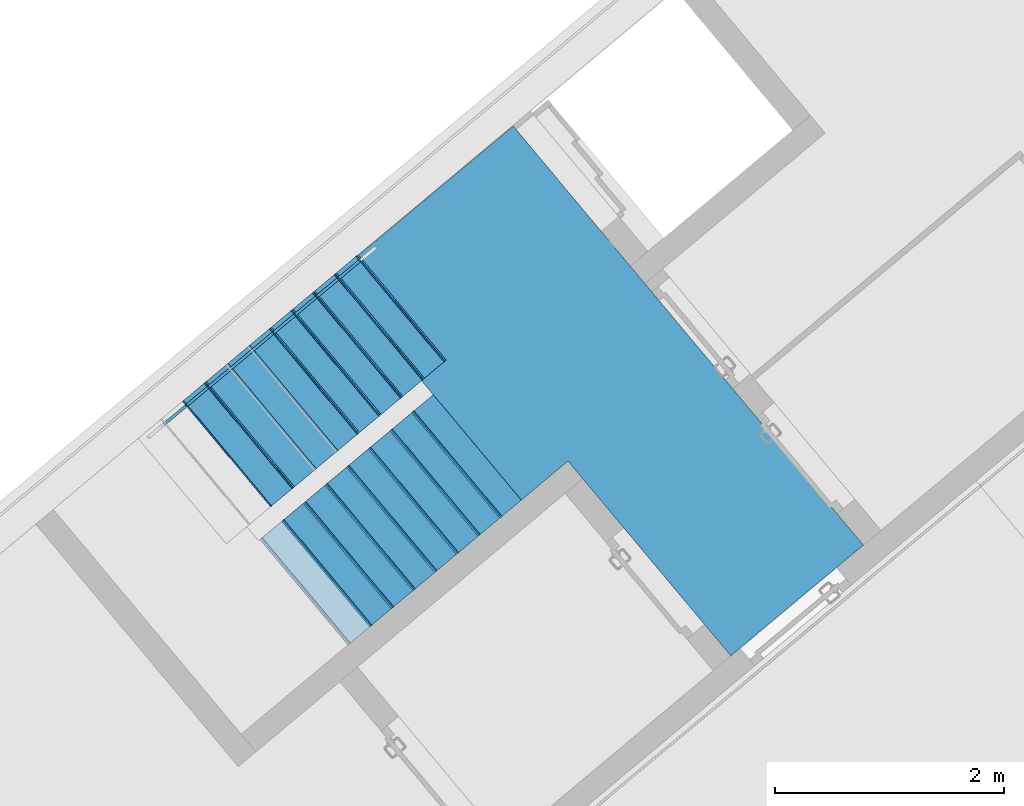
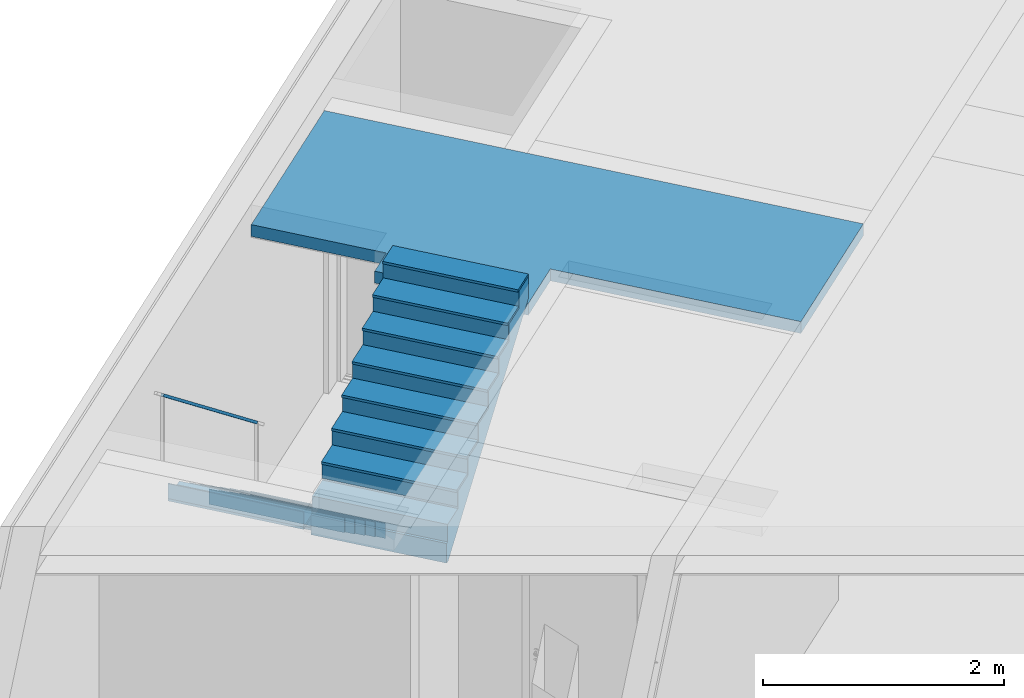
# One storey, part 9 of 14: 32 building element parts, 3 elements without a shape of their own.
"""IFC4 building model written with IfcOpenShell, lengths in metres."""

import ifcopenshell
import ifcopenshell.guid

model = None  # the IFC model being written
_history = None  # IfcOwnerHistory: only IFC2X3 demands one
_inside = {}  # id of a spatial element -> (the spatial element, [elements in it])
_under = {}  # id of a project, library or spatial element -> (it, [spatial elements below it])
_declared = {}  # id of a project -> (the project, [libraries it declares])
_typed = {}  # id of a type object -> (the type object, [elements of that type])
_made_of = {}  # id of a material, layer set ... -> (it, [elements and type objects made of it])


def new_model(schema):
    """Start an empty IFC model of exactly this schema.

    Asked for "IFC4X3", IfcOpenShell would pick the latest addendum, in which some entities
    have other attributes; the version numbers below select the first issue.
    IFC2X3 requires an IfcOwnerHistory on every rooted entity: one is made here for all.
    """
    global model, _history
    if schema == "IFC4X3":
        model = ifcopenshell.file(schema_version=(4, 3, 0, 0))
    else:
        model = ifcopenshell.file(schema=schema)
    _inside.clear()
    _under.clear()
    _declared.clear()
    _typed.clear()
    _made_of.clear()
    _history = None
    if model.schema == "IFC2X3":
        org = make("IfcOrganization", Name="unknown")
        user = make(
            "IfcPersonAndOrganization",
            ThePerson=make("IfcPerson", FamilyName="unknown"),
            TheOrganization=org,
        )
        app = make(
            "IfcApplication",
            ApplicationDeveloper=org,
            Version="unknown",
            ApplicationFullName="unknown",
            ApplicationIdentifier="unknown",
        )
        _history = make(
            "IfcOwnerHistory",
            OwningUser=user,
            OwningApplication=app,
            ChangeAction="ADDED",
            CreationDate=0,
        )
    return model


def make(cls, **values):
    """One entity of the class cls with the attributes given. An attribute that is None is left unset."""
    return model.create_entity(
        cls, **{name: value for name, value in values.items() if value is not None}
    )


def entity(cls, *values):
    """Any entity or typed value of the class cls, its attributes in the order of the schema. None: left unset."""
    e = model.create_entity(cls)
    for i, value in enumerate(values):
        if value is not None:
            e[i] = value
    return e


def rooted(cls, **values):
    """An entity with a GlobalId (a new one), such as an element, a storey or a relation."""
    return make(cls, GlobalId=ifcopenshell.guid.new(), OwnerHistory=_history, **values)


def si_unit(unit_type, name, prefix=None):
    """IfcSIUnit, for example si_unit("LENGTHUNIT", "METRE", prefix="MILLI")."""
    return make("IfcSIUnit", UnitType=unit_type, Prefix=prefix, Name=name)


def converted_unit(unit_type, name, factor, base, dimensions=None, offset=None):
    """IfcConversionBasedUnit, such as the inch: factor (a typed value) times the base unit."""
    return make(
        "IfcConversionBasedUnit"
        if offset is None
        else "IfcConversionBasedUnitWithOffset",
        ConversionOffset=offset,
        Dimensions=None
        if dimensions is None
        else entity("IfcDimensionalExponents", *dimensions),
        UnitType=unit_type,
        Name=name,
        ConversionFactor=make(
            "IfcMeasureWithUnit", ValueComponent=factor, UnitComponent=base
        ),
    )


def derived_unit(unit_type, elements):
    """IfcDerivedUnit: a product of units, each with its exponent."""
    return make(
        "IfcDerivedUnit",
        Elements=[
            make("IfcDerivedUnitElement", Unit=unit, Exponent=power)
            for unit, power in elements
        ],
        UnitType=unit_type,
    )


def assignment(units):
    """IfcUnitAssignment: the units of a project."""
    return None if units is None else make("IfcUnitAssignment", Units=units)


def point(xyz):
    """IfcCartesianPoint."""
    return None if xyz is None else make("IfcCartesianPoint", Coordinates=xyz)


def direction(xyz):
    """IfcDirection."""
    return None if xyz is None else make("IfcDirection", DirectionRatios=xyz)


def frame(location, z_axis=None, x_axis=None):
    """IfcAxis2Placement3D, a coordinate frame: its origin and axes. An axis left out is left unset."""
    return make(
        "IfcAxis2Placement3D",
        Location=point(location),
        Axis=direction(z_axis),
        RefDirection=direction(x_axis),
    )


def origin_with_axes():
    """The frame at (0, 0, 0) with the z axis (0, 0, 1) and the x axis (1, 0, 0) written out."""
    return frame((0.0, 0.0, 0.0), z_axis=(0.0, 0.0, 1.0), x_axis=(1.0, 0.0, 0.0))


def place(relative_to, where):
    """IfcLocalPlacement: puts the frame where relative to a parent placement (None: the world)."""
    return make(
        "IfcLocalPlacement", PlacementRelTo=relative_to, RelativePlacement=where
    )


def context(
    kind, dimensions, precision=None, world=None, true_north=None, identifier=None
):
    """IfcGeometricRepresentationContext, for example the 3D "Model" context."""
    return make(
        "IfcGeometricRepresentationContext",
        ContextIdentifier=identifier,
        ContextType=kind,
        CoordinateSpaceDimension=dimensions,
        Precision=precision,
        WorldCoordinateSystem=world,
        TrueNorth=true_north,
    )


def subcontext(parent, identifier, kind, view, scale=None):
    """IfcGeometricRepresentationSubContext, for example "Body" below "Model"."""
    return make(
        "IfcGeometricRepresentationSubContext",
        ContextIdentifier=identifier,
        ContextType=kind,
        ParentContext=parent,
        TargetScale=scale,
        TargetView=view,
    )


def project(units=None, contexts=None):
    """IfcProject with its units and contexts."""
    return rooted(
        "IfcProject",
        Name="project",
        RepresentationContexts=contexts,
        UnitsInContext=assignment(units),
    )


def spatial(cls, under=None, at=None, **own):
    """A site, building, storey or space (cls), placed at a placement, below another one or the project."""
    s = rooted(cls, ObjectPlacement=at, **own)
    if under is not None:
        _under.setdefault(under.id(), (under, []))[1].append(s)
    return s


def point_list(points):
    """IfcCartesianPointList2D or 3D."""
    cls = (
        "IfcCartesianPointList2D" if len(points[0]) == 2 else "IfcCartesianPointList3D"
    )
    return make(cls, CoordList=points)


def polygons(points, faces, closed=None, point_numbers=None):
    """IfcPolygonalFaceSet: a face is its outer loop, then its inner loops; points numbered from 1."""
    made = []
    for loops in faces:
        if len(loops) == 1:
            made.append(make("IfcIndexedPolygonalFace", CoordIndex=loops[0]))
        else:
            made.append(
                make(
                    "IfcIndexedPolygonalFaceWithVoids",
                    CoordIndex=loops[0],
                    InnerCoordIndices=loops[1:],
                )
            )
    return make(
        "IfcPolygonalFaceSet",
        Coordinates=point_list(points),
        Closed=closed,
        Faces=made,
        PnIndex=point_numbers,
    )


def shape(context_of_items, identifier, shape_type, items):
    """IfcShapeRepresentation: the items that make up one representation, for example the "Body"."""
    return make(
        "IfcShapeRepresentation",
        ContextOfItems=context_of_items,
        RepresentationIdentifier=identifier,
        RepresentationType=shape_type,
        Items=items,
    )


def material(Name=None, Category=None):
    """IfcMaterial."""
    return make("IfcMaterial", Name=Name, Category=Category)


def made_of(thing, what):
    """Note that an element or type object is made of a material, layer set ...; save() writes the relation."""
    if what is not None:
        _made_of.setdefault(what.id(), (what, []))[1].append(thing)
    return thing


def type_object(cls, material=None, **own):
    """A type object (cls), such as IfcWallType, which elements share."""
    return made_of(rooted(cls, **own), material)


def element(
    cls,
    number,
    at=None,
    inside=None,
    cuts=None,
    type_object=None,
    material=None,
    context=None,
    identifier="Body",
    shape_type=None,
    held_by="IfcProductDefinitionShape",
    body=None,
    shapes=None,
    **own,
):
    """One element of the class cls, such as IfcWall. Its Tag is "e" and its number.

    at: its placement. inside: the storey or other place that contains it. cuts: it is an
    opening in that element (IfcRelVoidsElement). A single representation is given by context,
    identifier, shape_type and body (its items); several are given by shapes. held_by: the class
    of the entity that holds the representations. save() writes the other relations.
    """
    e = rooted(cls, Tag="e%d" % number, ObjectPlacement=at, **own)
    if body is not None:
        shapes = [shape(context, identifier, shape_type, body)]
    if shapes is not None:
        e.Representation = make(held_by, Representations=shapes)
    if inside is not None:
        _inside.setdefault(inside.id(), (inside, []))[1].append(e)
    if cuts is not None:
        rooted(
            "IfcRelVoidsElement", RelatingBuildingElement=cuts, RelatedOpeningElement=e
        )
    if type_object is not None:
        _typed.setdefault(type_object.id(), (type_object, []))[1].append(e)
    return made_of(e, material)


def aggregate(whole, parts):
    """IfcRelAggregates: a whole, such as a stair, and the parts it consists of."""
    return rooted("IfcRelAggregates", RelatingObject=whole, RelatedObjects=parts)


def save(model, path):
    """Write the relations noted so far, then the file.

    IfcRelAggregates (storeys below a building ...), IfcRelContainedInSpatialStructure (elements
    in a storey), IfcRelDefinesByType, IfcRelAssociatesMaterial and IfcRelDeclares: one each for
    every whole, place, type object, material and project.
    """
    for whole, parts in _under.values():
        aggregate(whole, parts)
    for where, things in _inside.values():
        rooted(
            "IfcRelContainedInSpatialStructure",
            RelatedElements=things,
            RelatingStructure=where,
        )
    for kind, things in _typed.values():
        rooted("IfcRelDefinesByType", RelatedObjects=things, RelatingType=kind)
    for what, things in _made_of.values():
        rooted("IfcRelAssociatesMaterial", RelatedObjects=things, RelatingMaterial=what)
    for by, libraries in _declared.values():
        rooted("IfcRelDeclares", RelatingContext=by, RelatedDefinitions=libraries)
    model.write(path)


model = new_model("IFC4")

# Units and contexts
model_context = context("Model", 3, precision=1e-05, world=origin_with_axes(), true_north=direction((0.0, 1.0)))
body_context = subcontext(model_context, "Body", "Model", "MODEL_VIEW")
ifc_project = project(units=[si_unit("LENGTHUNIT", "METRE"), si_unit("AREAUNIT", "SQUARE_METRE"), si_unit("VOLUMEUNIT", "CUBIC_METRE"), converted_unit("PLANEANGLEUNIT", "DEGREE", entity("IfcPlaneAngleMeasure", 0.0174532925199), si_unit("PLANEANGLEUNIT", "RADIAN"), dimensions=[0, 0, 0, 0, 0, 0, 0]), converted_unit("TIMEUNIT", "Year", entity("IfcTimeMeasure", 31556926.0), si_unit("TIMEUNIT", "SECOND"), dimensions=[0, 0, 1, 0, 0, 0, 0]), si_unit("MASSUNIT", "GRAM", prefix="KILO"), si_unit("THERMODYNAMICTEMPERATUREUNIT", "DEGREE_CELSIUS"), si_unit("LUMINOUSINTENSITYUNIT", "LUMEN"), si_unit("ENERGYUNIT", "JOULE", prefix="MEGA"), derived_unit("THERMALCONDUCTANCEUNIT", [(si_unit("POWERUNIT", "WATT"), 1), (si_unit("LENGTHUNIT", "METRE"), -1), (si_unit("THERMODYNAMICTEMPERATUREUNIT", "KELVIN"), -1)]), derived_unit("SPECIFICHEATCAPACITYUNIT", [(si_unit("ENERGYUNIT", "JOULE"), 1), (si_unit("MASSUNIT", "GRAM", prefix="KILO"), -1), (si_unit("THERMODYNAMICTEMPERATUREUNIT", "KELVIN"), -1)]), derived_unit("MASSDENSITYUNIT", [(si_unit("MASSUNIT", "GRAM", prefix="KILO"), 1), (si_unit("VOLUMEUNIT", "CUBIC_METRE"), -1)])], contexts=[model_context])

# Site, building, storey, space
site_placement = place(None, frame((-0.00153261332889, -0.00661245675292, 0.0), z_axis=(0.0, 0.0, 1.0), x_axis=(1.0, 0.0, 0.0)))
site = spatial("IfcSite", under=ifc_project, at=site_placement, Name="Gelände", CompositionType="ELEMENT")
building_placement = place(site_placement, origin_with_axes())
building = spatial("IfcBuilding", under=site, at=building_placement, Name="Gebäude", CompositionType="ELEMENT")
storey_placement = place(building_placement, frame((0.0, 0.0, -3.3), z_axis=(0.0, 0.0, 1.0), x_axis=(1.0, 0.0, 0.0)))
storey = spatial("IfcBuildingStorey", under=building, at=storey_placement, Name="UG1", CompositionType="ELEMENT", Elevation=-3.3)
space_1_placement = place(storey_placement, frame((-1.16790631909, 24.7563892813, 0.0), z_axis=(0.0, 0.0, 1.0), x_axis=(0.641170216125, -0.767398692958, 0.0)))
space_1 = spatial("IfcSpace", under=storey, at=space_1_placement, Name="Beschichtung", CompositionType="ELEMENT", PredefinedType="NOTDEFINED")

# Railing, building element part
railing_type = type_object("IfcRailingType", Name="Geländerart", PredefinedType="NOTDEFINED")
railing_placement = place(space_1_placement, frame((-7.15429375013e-05, 0.255237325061, 0.0), z_axis=(0.0, 0.0, 1.0), x_axis=(0.641170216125, 0.767398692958, 0.0)))
railing = element("IfcRailing", 1, at=railing_placement, inside=space_1, type_object=railing_type, Name="Geländer - 001", PredefinedType="NOTDEFINED")
ifc_material_1 = material(Name="BEKLEIDUNG")
building_element_part_1_placement = place(railing_placement, origin_with_axes())
building_element_part_1 = element("IfcBuildingElementPart", 2, at=building_element_part_1_placement, material=ifc_material_1, Name="BEKLEIDUNG", PredefinedType="NOTDEFINED", context=body_context, shape_type="Tessellation", body=[
    polygons([(-0.171824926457, -0.192428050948, 0.9), (-0.183623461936, -0.202285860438, 0.880286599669), (-1.92194510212, -1.65467320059, 2.64695326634), (-1.91014656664, -1.6448153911, 2.66666666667), (-0.155795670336, -0.211613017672, 0.9), (-0.167594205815, -0.221470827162, 0.880286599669), (-1.90591584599, -1.67385816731, 2.64695326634), (-1.89411731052, -1.66400035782, 2.66666666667)], [[[1, 2, 3, 4]], [[1, 5, 6, 2]], [[2, 6, 7, 3]], [[4, 3, 7, 8]], [[5, 1, 4, 8]], [[6, 5, 8, 7]]], closed=True),
])
aggregate(railing, [building_element_part_1])

# Covering, building element part
covering_type = type_object("IfcCoveringType", Name="Vorsatzschale Garage 130", PredefinedType="NOTDEFINED")
covering_placement = place(storey_placement, frame((3.24624745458, 22.2189221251, 2.88), z_axis=(0.0, 0.0, 1.0), x_axis=(1.0, 0.0, 0.0)))
covering = element("IfcCovering", 3, at=covering_placement, inside=storey, type_object=covering_type, Name="Decke-005", PredefinedType="NOTDEFINED")
ifc_material_2 = material(Name="Holzwolledämmplatte")
building_element_part_2_placement = place(covering_placement, origin_with_axes())
building_element_part_2 = element("IfcBuildingElementPart", 4, at=building_element_part_2_placement, material=ifc_material_2, Name="Holzwolledämmplatte", PredefinedType="NOTDEFINED", context=body_context, shape_type="Tessellation", body=[
    polygons([(0.0, 0.0, -0.12), (-3.05956379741, 3.66153767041, -0.12), (-3.05956379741, 3.66153767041, 0.0), (0.0, 0.0, 0.0), (-1.15876961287, -0.968265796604, -0.12), (-2.58084285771, 0.733596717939, -0.12), (-2.98835951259, 0.393076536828, -0.12), (-3.86030260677, 1.4365849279, -0.12), (-3.64479537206, 1.61664362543, -0.12), (-4.41133641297, 2.53409509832, -0.12), (-4.41133641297, 2.53409509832, 0.0), (-1.15876961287, -0.968265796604, 0.0), (-3.64479537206, 1.61664362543, 0.0), (-3.86030260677, 1.4365849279, 0.0), (-2.98835951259, 0.393076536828, 0.0), (-2.58084285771, 0.733596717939, 0.0)], [[[1, 2, 3, 4]], [[2, 1, 5, 6, 7, 8, 9, 10]], [[2, 10, 11, 3]], [[12, 4, 3, 11, 13, 14, 15, 16]], [[5, 1, 4, 12]], [[6, 5, 12, 16]], [[7, 6, 16, 15]], [[8, 7, 15, 14]], [[9, 8, 14, 13]], [[10, 9, 13, 11]]], closed=True),
])
aggregate(covering, [building_element_part_2])

# Space
space_2_placement = place(storey_placement, frame((-3.82859754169, 22.5273942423, 0.0164638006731), z_axis=(0.0, 0.0, 1.0), x_axis=(0.641209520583, -0.767365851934, 0.0)))
space_2 = spatial("IfcSpace", under=storey, at=space_2_placement, CompositionType="ELEMENT", PredefinedType="NOTDEFINED")

# Stair, building element parts
stair_type = type_object("IfcStairType", Name="Treppentyp", PredefinedType="NOTDEFINED")
stair_placement = place(space_2_placement, frame((-0.00445260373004, 3.72621375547, -0.0164638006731), z_axis=(0.0, 0.0, 1.0), x_axis=(0.641209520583, 0.767365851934, 0.0)))
stair = element("IfcStair", 5, at=stair_placement, inside=space_2, type_object=stair_type, Name="Treppe - 001", PredefinedType="NOTDEFINED")
ifc_material_3 = material(Name="Stahlbeton Decke")
building_element_part_3_placement = place(stair_placement, origin_with_axes())
building_element_part_3 = element("IfcBuildingElementPart", 6, at=building_element_part_3_placement, material=ifc_material_3, Name="Stahlbeton Decke", PredefinedType="NOTDEFINED", context=body_context, shape_type="Tessellation", body=[
    polygons([(1.10378229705, -2.4135394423, 2.81014065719), (1.16687682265, -2.36081777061, 2.86902954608), (1.22997134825, -2.30809609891, 2.92791843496), (1.22997134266, -2.30809609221, 3.155), (1.05994864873, -2.45016674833, 3.155), (1.05994864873, -2.45016674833, 2.97833333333), (0.870665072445, -2.60833176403, 2.97833333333), (0.870665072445, -2.60833176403, 2.80166666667), (0.681381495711, -2.7664967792, 2.80166666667), (0.681381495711, -2.7664967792, 2.625), (0.492097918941, -2.92466179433, 2.625), (0.492097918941, -2.92466179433, 2.44833333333), (0.302814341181, -3.08282680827, 2.44833333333), (0.302814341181, -3.08282680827, 2.27166666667), (0.113530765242, -3.24099182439, 2.27166666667), (0.113530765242, -3.24099182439, 2.095), (-0.0757528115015, -3.39915683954, 2.095), (-0.0757528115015, -3.39915683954, 1.91833333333), (-0.265036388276, -3.55732185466, 1.91833333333), (-0.265036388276, -3.55732185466, 1.74166666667), (-0.284297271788, -3.57341621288, 1.74166666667), (-0.284297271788, -3.57341621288, 1.54166666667), (-0.255281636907, -3.54917080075, 1.54166666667), (-0.221202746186, -3.52069454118, 1.57347399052), (-0.158108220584, -3.46797286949, 1.63236287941), (-0.0950136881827, -3.41525120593, 1.6912517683), (-0.0319191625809, -3.36252953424, 1.75014065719), (0.0311753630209, -3.30980786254, 1.80902954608), (0.0942698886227, -3.25708619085, 1.86791843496), (0.157364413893, -3.20436451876, 1.92680732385), (0.220458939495, -3.15164284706, 1.98569621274), (0.283553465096, -3.09892117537, 2.04458510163), (0.346647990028, -3.04619950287, 2.10347399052), (0.40974251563, -2.99347783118, 2.16236287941), (0.472837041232, -2.94075615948, 2.2212517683), (0.535931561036, -2.88803448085, 2.28014065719), (0.599026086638, -2.83531280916, 2.33902954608), (0.66212061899, -2.78259114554, 2.39791843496), (0.725215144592, -2.72986947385, 2.45680732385), (0.788309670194, -2.67714780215, 2.51569621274), (0.851404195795, -2.62442613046, 2.57458510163), (0.914498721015, -2.57170445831, 2.63347399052), (0.977593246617, -2.51898278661, 2.69236287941), (1.04068777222, -2.46626111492, 2.7512517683), (0.397425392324, -1.43997874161, 2.86902954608), (0.334330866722, -1.49270041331, 2.81014065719), (0.460519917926, -1.38725706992, 2.92791843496), (0.460519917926, -1.38725706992, 3.155), (0.290497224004, -1.52932772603, 3.155), (0.290497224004, -1.52932772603, 2.97833333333), (0.101213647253, -1.68749274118, 2.97833333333), (0.101213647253, -1.68749274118, 2.80166666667), (-0.0880699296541, -1.84565775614, 2.80166666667), (-0.0880699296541, -1.84565775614, 2.625), (-0.27735350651, -2.00382277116, 2.625), (-0.27735350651, -2.00382277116, 2.44833333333), (-0.46663708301, -2.16198778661, 2.44833333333), (-0.46663708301, -2.16198778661, 2.27166666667), (-0.655920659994, -2.32015280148, 2.27166666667), (-0.655920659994, -2.32015280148, 2.095), (-0.845204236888, -2.47831781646, 2.095), (-0.845204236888, -2.47831781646, 1.91833333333), (-1.03448781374, -2.63648283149, 1.91833333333), (-1.03448781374, -2.63648283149, 1.74166666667), (-1.05374869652, -2.65257719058, 1.74166666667), (-1.05374870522, -2.65257718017, 1.54166666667), (-1.02473307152, -2.62833176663, 1.54166666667), (-0.990654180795, -2.59985550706, 1.57347399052), (-0.927559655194, -2.54713383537, 1.63236287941), (-0.864465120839, -2.49441217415, 1.6912517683), (-0.801370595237, -2.44169050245, 1.75014065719), (-0.738276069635, -2.38896883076, 1.80902954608), (-0.675181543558, -2.33624715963, 1.86791843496), (-0.612087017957, -2.28352548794, 1.92680732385), (-0.548992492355, -2.23080381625, 1.98569621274), (-0.4858979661, -2.17808214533, 2.04458510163), (-0.422803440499, -2.12536047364, 2.10347399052), (-0.359708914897, -2.07263880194, 2.16236287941), (-0.296614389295, -2.01991713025, 2.2212517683), (-0.233519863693, -1.96719545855, 2.28014065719), (-0.170425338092, -1.91447378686, 2.33902954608), (-0.10733081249, -1.86175211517, 2.39791843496), (-0.0442362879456, -1.80903044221, 2.45680732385), (0.0188582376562, -1.75630877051, 2.51569621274), (0.0819527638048, -1.70358709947, 2.57458510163), (0.145047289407, -1.65086542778, 2.63347399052), (0.208141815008, -1.59814375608, 2.69236287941), (0.271236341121, -1.545422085, 2.7512517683)], [[[1, 2, 3, 4, 5, 6, 7, 8, 9, 10, 11, 12, 13, 14, 15, 16, 17, 18, 19, 20, 21, 22, 23, 24, 25, 26, 27, 28, 29, 30, 31, 32, 33, 34, 35, 36, 37, 38, 39, 40, 41, 42, 43, 44]], [[45, 2, 1, 46]], [[47, 3, 2, 45]], [[4, 3, 47, 48]], [[4, 48, 49, 5]], [[49, 50, 6, 5]], [[51, 7, 6, 50]], [[51, 52, 8, 7]], [[53, 9, 8, 52]], [[53, 54, 10, 9]], [[55, 11, 10, 54]], [[55, 56, 12, 11]], [[57, 13, 12, 56]], [[57, 58, 14, 13]], [[59, 15, 14, 58]], [[59, 60, 16, 15]], [[61, 17, 16, 60]], [[61, 62, 18, 17]], [[63, 19, 18, 62]], [[63, 64, 20, 19]], [[64, 65, 21, 20]], [[66, 22, 21, 65]], [[23, 22, 66, 67]], [[68, 24, 23, 67]], [[69, 25, 24, 68]], [[70, 26, 25, 69]], [[71, 27, 26, 70]], [[72, 28, 27, 71]], [[73, 29, 28, 72]], [[74, 30, 29, 73]], [[75, 31, 30, 74]], [[76, 32, 31, 75]], [[77, 33, 32, 76]], [[78, 34, 33, 77]], [[79, 35, 34, 78]], [[80, 36, 35, 79]], [[81, 37, 36, 80]], [[82, 38, 37, 81]], [[83, 39, 38, 82]], [[84, 40, 39, 83]], [[85, 41, 40, 84]], [[86, 42, 41, 85]], [[87, 43, 42, 86]], [[88, 44, 43, 87]], [[46, 1, 44, 88]], [[69, 68, 67, 66, 65, 64, 63, 62, 61, 60, 59, 58, 57, 56, 55, 54, 53, 52, 51, 50, 49, 48, 47, 45, 46, 88, 87, 86, 85, 84, 83, 82, 81, 80, 79, 78, 77, 76, 75, 74, 73, 72, 71, 70]]], closed=True),
])
building_element_part_4_placement = place(stair_placement, origin_with_axes())
building_element_part_4 = element("IfcBuildingElementPart", 7, at=building_element_part_4_placement, material=ifc_material_1, Name="BEKLEIDUNG", PredefinedType="NOTDEFINED", context=body_context, shape_type="Tessellation", body=[
    polygons([(-0.207379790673, -0.173268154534, 0.151666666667), (-0.215053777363, -0.179679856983, 0.151666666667), (0.55435051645, -1.10055825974, 0.151666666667), (0.56202450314, -1.09414655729, 0.151666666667), (-0.207379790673, -0.173268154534, 0.0), (-0.215053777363, -0.179679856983, 0.0), (0.55435051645, -1.10055825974, 0.0), (0.56202450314, -1.09414655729, 0.0)], [[[1, 2, 3, 4]], [[1, 5, 6, 2]], [[2, 6, 7, 3]], [[4, 3, 7, 8]], [[5, 1, 4, 8]], [[6, 5, 8, 7]]], closed=True),
])
building_element_part_5_placement = place(stair_placement, origin_with_axes())
building_element_part_5 = element("IfcBuildingElementPart", 8, at=building_element_part_5_placement, material=ifc_material_1, Name="BEKLEIDUNG", PredefinedType="NOTDEFINED", context=body_context, shape_type="Tessellation", body=[
    polygons([(-0.396671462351, -0.331423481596, 0.328333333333), (-0.40434544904, -0.337835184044, 0.328333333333), (0.365058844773, -1.2587135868, 0.328333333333), (0.372732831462, -1.25230188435, 0.328333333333), (-0.396671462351, -0.331423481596, 0.176666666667), (-0.40434544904, -0.337835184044, 0.176666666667), (0.365058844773, -1.2587135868, 0.176666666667), (0.372732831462, -1.25230188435, 0.176666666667)], [[[1, 2, 3, 4]], [[1, 5, 6, 2]], [[2, 6, 7, 3]], [[4, 3, 7, 8]], [[5, 1, 4, 8]], [[6, 5, 8, 7]]], closed=True),
])
building_element_part_6_placement = place(stair_placement, origin_with_axes())
building_element_part_6 = element("IfcBuildingElementPart", 9, at=building_element_part_6_placement, material=ifc_material_1, Name="BEKLEIDUNG", PredefinedType="NOTDEFINED", context=body_context, shape_type="Tessellation", body=[
    polygons([(-0.585963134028, -0.489578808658, 0.505), (-0.593637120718, -0.495990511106, 0.505), (0.175767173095, -1.41686891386, 0.505), (0.183441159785, -1.41045721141, 0.505), (-0.585963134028, -0.489578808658, 0.353333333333), (-0.593637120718, -0.495990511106, 0.353333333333), (0.175767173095, -1.41686891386, 0.353333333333), (0.183441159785, -1.41045721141, 0.353333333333)], [[[1, 2, 3, 4]], [[1, 5, 6, 2]], [[2, 6, 7, 3]], [[4, 3, 7, 8]], [[5, 1, 4, 8]], [[6, 5, 8, 7]]], closed=True),
])
building_element_part_7_placement = place(stair_placement, origin_with_axes())
building_element_part_7 = element("IfcBuildingElementPart", 10, at=building_element_part_7_placement, material=ifc_material_1, Name="BEKLEIDUNG", PredefinedType="NOTDEFINED", context=body_context, shape_type="Tessellation", body=[
    polygons([(-0.775254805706, -0.647734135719, 0.681666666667), (-0.782928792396, -0.654145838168, 0.681666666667), (-0.0135244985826, -1.57502424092, 0.681666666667), (-0.005850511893, -1.56861253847, 0.681666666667), (-0.775254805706, -0.647734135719, 0.53), (-0.782928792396, -0.654145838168, 0.53), (-0.0135244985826, -1.57502424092, 0.53), (-0.005850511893, -1.56861253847, 0.53)], [[[1, 2, 3, 4]], [[1, 5, 6, 2]], [[2, 6, 7, 3]], [[4, 3, 7, 8]], [[5, 1, 4, 8]], [[6, 5, 8, 7]]], closed=True),
])
building_element_part_8_placement = place(stair_placement, origin_with_axes())
building_element_part_8 = element("IfcBuildingElementPart", 11, at=building_element_part_8_placement, material=ifc_material_1, Name="BEKLEIDUNG", PredefinedType="NOTDEFINED", context=body_context, shape_type="Tessellation", body=[
    polygons([(-0.964546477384, -0.805889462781, 0.858333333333), (-0.972220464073, -0.812301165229, 0.858333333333), (-0.20281617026, -1.73317956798, 0.858333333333), (-0.195142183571, -1.72676786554, 0.858333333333), (-0.964546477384, -0.805889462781, 0.706666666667), (-0.972220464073, -0.812301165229, 0.706666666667), (-0.20281617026, -1.73317956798, 0.706666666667), (-0.195142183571, -1.72676786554, 0.706666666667)], [[[1, 2, 3, 4]], [[1, 5, 6, 2]], [[2, 6, 7, 3]], [[4, 3, 7, 8]], [[5, 1, 4, 8]], [[6, 5, 8, 7]]], closed=True),
])
building_element_part_9_placement = place(stair_placement, origin_with_axes())
building_element_part_9 = element("IfcBuildingElementPart", 12, at=building_element_part_9_placement, material=ifc_material_1, Name="BEKLEIDUNG", PredefinedType="NOTDEFINED", context=body_context, shape_type="Tessellation", body=[
    polygons([(-1.53242149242, -1.28035544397, 1.38833333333), (-1.54009547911, -1.28676714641, 1.38833333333), (-0.770691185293, -2.20764554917, 1.38833333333), (-0.763017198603, -2.20123384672, 1.38833333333), (-1.53242149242, -1.28035544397, 1.23666666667), (-1.54009547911, -1.28676714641, 1.23666666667), (-0.770691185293, -2.20764554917, 1.23666666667), (-0.763017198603, -2.20123384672, 1.23666666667)], [[[1, 2, 3, 4]], [[1, 5, 6, 2]], [[2, 6, 7, 3]], [[4, 3, 7, 8]], [[5, 1, 4, 8]], [[6, 5, 8, 7]]], closed=True),
])
building_element_part_10_placement = place(stair_placement, origin_with_axes())
building_element_part_10 = element("IfcBuildingElementPart", 13, at=building_element_part_10_placement, material=ifc_material_1, Name="BEKLEIDUNG", PredefinedType="NOTDEFINED", context=body_context, shape_type="Tessellation", body=[
    polygons([(-1.72171316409, -1.43851077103, 1.565), (-1.72938715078, -1.44492247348, 1.565), (-0.959982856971, -2.36580087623, 1.565), (-0.952308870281, -2.35938917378, 1.565), (-1.72171316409, -1.43851077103, 1.41333333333), (-1.72938715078, -1.44492247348, 1.41333333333), (-0.959982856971, -2.36580087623, 1.41333333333), (-0.952308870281, -2.35938917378, 1.41333333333)], [[[1, 2, 3, 4]], [[1, 5, 6, 2]], [[2, 6, 7, 3]], [[4, 3, 7, 8]], [[5, 1, 4, 8]], [[6, 5, 8, 7]]], closed=True),
])
building_element_part_11_placement = place(stair_placement, origin_with_axes())
building_element_part_11 = element("IfcBuildingElementPart", 14, at=building_element_part_11_placement, material=ifc_material_1, Name="BEKLEIDUNG", PredefinedType="NOTDEFINED", context=body_context, shape_type="Tessellation", body=[
    polygons([(-0.0835032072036, -3.40563305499, 2.095), (-0.0758295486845, -3.39922095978, 2.095), (-0.845280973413, -2.47838193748, 2.095), (-0.852954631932, -2.48479403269, 2.095), (-0.0835032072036, -3.40563305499, 1.94333333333), (-0.0758295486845, -3.39922095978, 1.94333333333), (-0.845280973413, -2.47838193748, 1.94333333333), (-0.852954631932, -2.48479403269, 1.94333333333)], [[[1, 2, 3, 4]], [[1, 5, 6, 2]], [[2, 6, 7, 3]], [[4, 3, 7, 8]], [[5, 1, 4, 8]], [[6, 5, 8, 7]]], closed=True),
])
building_element_part_12_placement = place(stair_placement, origin_with_axes())
building_element_part_12 = element("IfcBuildingElementPart", 15, at=building_element_part_12_placement, material=ifc_material_1, Name="BEKLEIDUNG", PredefinedType="NOTDEFINED", context=body_context, shape_type="Tessellation", body=[
    polygons([(0.105780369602, -3.2474680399, 2.27166666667), (0.113454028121, -3.2410559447, 2.27166666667), (-0.655997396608, -2.3202169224, 2.27166666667), (-0.663671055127, -2.32662901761, 2.27166666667), (0.105780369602, -3.2474680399, 2.12), (0.113454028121, -3.2410559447, 2.12), (-0.655997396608, -2.3202169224, 2.12), (-0.663671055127, -2.32662901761, 2.12)], [[[1, 2, 3, 4]], [[1, 5, 6, 2]], [[2, 6, 7, 3]], [[4, 3, 7, 8]], [[5, 1, 4, 8]], [[6, 5, 8, 7]]], closed=True),
])
building_element_part_13_placement = place(stair_placement, origin_with_axes())
building_element_part_13 = element("IfcBuildingElementPart", 16, at=building_element_part_13_placement, material=ifc_material_1, Name="BEKLEIDUNG", PredefinedType="NOTDEFINED", context=body_context, shape_type="Tessellation", body=[
    polygons([(0.295063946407, -3.08930302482, 2.44833333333), (0.302737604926, -3.08289092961, 2.44833333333), (-0.466713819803, -2.16205190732, 2.44833333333), (-0.474387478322, -2.16846400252, 2.44833333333), (0.295063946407, -3.08930302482, 2.29666666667), (0.302737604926, -3.08289092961, 2.29666666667), (-0.466713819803, -2.16205190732, 2.29666666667), (-0.474387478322, -2.16846400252, 2.29666666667)], [[[1, 2, 3, 4]], [[1, 5, 6, 2]], [[2, 6, 7, 3]], [[4, 3, 7, 8]], [[5, 1, 4, 8]], [[6, 5, 8, 7]]], closed=True),
])
building_element_part_14_placement = place(stair_placement, origin_with_axes())
building_element_part_14 = element("IfcBuildingElementPart", 17, at=building_element_part_14_placement, material=ifc_material_1, Name="BEKLEIDUNG", PredefinedType="NOTDEFINED", context=body_context, shape_type="Tessellation", body=[
    polygons([(0.484347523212, -2.93113800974, 2.625), (0.492021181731, -2.92472591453, 2.625), (-0.277430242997, -2.00388689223, 2.625), (-0.285103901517, -2.01029898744, 2.625), (0.484347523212, -2.93113800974, 2.47333333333), (0.492021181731, -2.92472591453, 2.47333333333), (-0.277430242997, -2.00388689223, 2.47333333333), (-0.285103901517, -2.01029898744, 2.47333333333)], [[[1, 2, 3, 4]], [[1, 5, 6, 2]], [[2, 6, 7, 3]], [[4, 3, 7, 8]], [[5, 1, 4, 8]], [[6, 5, 8, 7]]], closed=True),
])
building_element_part_15_placement = place(stair_placement, origin_with_axes())
building_element_part_15 = element("IfcBuildingElementPart", 18, at=building_element_part_15_placement, material=ifc_material_1, Name="BEKLEIDUNG", PredefinedType="NOTDEFINED", context=body_context, shape_type="Tessellation", body=[
    polygons([(0.673631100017, -2.77297299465, 2.80166666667), (0.681304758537, -2.76656089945, 2.80166666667), (-0.0881466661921, -1.84572187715, 2.80166666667), (-0.0958203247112, -1.85213397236, 2.80166666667), (0.673631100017, -2.77297299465, 2.65), (0.681304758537, -2.76656089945, 2.65), (-0.0881466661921, -1.84572187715, 2.65), (-0.0958203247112, -1.85213397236, 2.65)], [[[1, 2, 3, 4]], [[1, 5, 6, 2]], [[2, 6, 7, 3]], [[4, 3, 7, 8]], [[5, 1, 4, 8]], [[6, 5, 8, 7]]], closed=True),
])
building_element_part_16_placement = place(stair_placement, origin_with_axes())
building_element_part_16 = element("IfcBuildingElementPart", 19, at=building_element_part_16_placement, material=ifc_material_1, Name="BEKLEIDUNG", PredefinedType="NOTDEFINED", context=body_context, shape_type="Tessellation", body=[
    polygons([(0.862914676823, -2.61480797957, 2.97833333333), (0.870588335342, -2.60839588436, 2.97833333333), (0.101136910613, -1.68755686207, 2.97833333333), (0.093463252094, -1.69396895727, 2.97833333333), (0.862914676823, -2.61480797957, 2.82666666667), (0.870588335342, -2.60839588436, 2.82666666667), (0.101136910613, -1.68755686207, 2.82666666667), (0.093463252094, -1.69396895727, 2.82666666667)], [[[1, 2, 3, 4]], [[1, 5, 6, 2]], [[2, 6, 7, 3]], [[4, 3, 7, 8]], [[5, 1, 4, 8]], [[6, 5, 8, 7]]], closed=True),
])
building_element_part_17_placement = place(stair_placement, origin_with_axes())
building_element_part_17 = element("IfcBuildingElementPart", 20, at=building_element_part_17_placement, material=ifc_material_1, Name="BEKLEIDUNG", PredefinedType="NOTDEFINED", context=body_context, shape_type="Tessellation", body=[
    polygons([(1.05219825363, -2.45664296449, 3.155), (1.05987191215, -2.45023086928, 3.155), (0.290420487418, -1.52939184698, 3.155), (0.282746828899, -1.53580394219, 3.155), (1.05219825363, -2.45664296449, 3.00333333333), (1.05987191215, -2.45023086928, 3.00333333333), (0.290420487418, -1.52939184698, 3.00333333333), (0.282746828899, -1.53580394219, 3.00333333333)], [[[1, 2, 3, 4]], [[1, 5, 6, 2]], [[2, 6, 7, 3]], [[4, 3, 7, 8]], [[5, 1, 4, 8]], [[6, 5, 8, 7]]], closed=True),
])
building_element_part_18_placement = place(stair_placement, origin_with_axes())
building_element_part_18 = element("IfcBuildingElementPart", 21, at=building_element_part_18_placement, material=ifc_material_1, Name="BEKLEIDUNG", PredefinedType="NOTDEFINED", context=body_context, shape_type="Tessellation", body=[
    polygons([(0.573535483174, -1.08452900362, 0.151666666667), (-0.195868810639, -0.163650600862, 0.151666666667), (-0.195868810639, -0.163650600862, 0.176666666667), (0.573535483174, -1.08452900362, 0.176666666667), (0.365058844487, -1.25871358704, 0.151666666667), (-0.404345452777, -0.337835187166, 0.151666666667), (-0.404345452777, -0.337835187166, 0.176666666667), (0.365058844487, -1.25871358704, 0.176666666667)], [[[1, 2, 3, 4]], [[1, 5, 6, 2]], [[2, 6, 7, 3]], [[4, 3, 7, 8]], [[5, 1, 4, 8]], [[6, 5, 8, 7]]], closed=True),
])
building_element_part_19_placement = place(stair_placement, origin_with_axes())
building_element_part_19 = element("IfcBuildingElementPart", 22, at=building_element_part_19_placement, material=ifc_material_1, Name="BEKLEIDUNG", PredefinedType="NOTDEFINED", context=body_context, shape_type="Tessellation", body=[
    polygons([(0.384243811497, -1.24268433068, 0.328333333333), (-0.385160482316, -0.321805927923, 0.328333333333), (-0.385160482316, -0.321805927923, 0.353333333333), (0.384243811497, -1.24268433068, 0.353333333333), (0.17576717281, -1.4168689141, 0.328333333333), (-0.593637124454, -0.495990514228, 0.328333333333), (-0.593637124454, -0.495990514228, 0.353333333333), (0.17576717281, -1.4168689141, 0.353333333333)], [[[1, 2, 3, 4]], [[1, 5, 6, 2]], [[2, 6, 7, 3]], [[4, 3, 7, 8]], [[5, 1, 4, 8]], [[6, 5, 8, 7]]], closed=True),
])
building_element_part_20_placement = place(stair_placement, origin_with_axes())
building_element_part_20 = element("IfcBuildingElementPart", 23, at=building_element_part_20_placement, material=ifc_material_1, Name="BEKLEIDUNG", PredefinedType="NOTDEFINED", context=body_context, shape_type="Tessellation", body=[
    polygons([(0.194952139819, -1.40083965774, 0.505), (-0.574452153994, -0.479961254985, 0.505), (-0.574452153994, -0.479961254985, 0.53), (0.194952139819, -1.40083965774, 0.53), (-0.0135244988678, -1.57502424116, 0.505), (-0.782928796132, -0.654145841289, 0.505), (-0.782928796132, -0.654145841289, 0.53), (-0.0135244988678, -1.57502424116, 0.53)], [[[1, 2, 3, 4]], [[1, 5, 6, 2]], [[2, 6, 7, 3]], [[4, 3, 7, 8]], [[5, 1, 4, 8]], [[6, 5, 8, 7]]], closed=True),
])
building_element_part_21_placement = place(stair_placement, origin_with_axes())
building_element_part_21 = element("IfcBuildingElementPart", 24, at=building_element_part_21_placement, material=ifc_material_1, Name="BEKLEIDUNG", PredefinedType="NOTDEFINED", context=body_context, shape_type="Tessellation", body=[
    polygons([(0.00566046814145, -1.5589949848, 0.681666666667), (-0.763743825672, -0.638116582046, 0.681666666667), (-0.763743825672, -0.638116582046, 0.706666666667), (0.00566046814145, -1.5589949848, 0.706666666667), (-0.202816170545, -1.73317956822, 0.681666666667), (-0.97222046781, -0.812301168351, 0.681666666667), (-0.97222046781, -0.812301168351, 0.706666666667), (-0.202816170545, -1.73317956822, 0.706666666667)], [[[1, 2, 3, 4]], [[1, 5, 6, 2]], [[2, 6, 7, 3]], [[4, 3, 7, 8]], [[5, 1, 4, 8]], [[6, 5, 8, 7]]], closed=True),
])
building_element_part_22_placement = place(stair_placement, origin_with_axes())
building_element_part_22 = element("IfcBuildingElementPart", 25, at=building_element_part_22_placement, material=ifc_material_1, Name="BEKLEIDUNG", PredefinedType="NOTDEFINED", context=body_context, shape_type="Tessellation", body=[
    polygons([(-0.183631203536, -1.71715031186, 0.858333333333), (-0.953035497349, -0.796271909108, 0.858333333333), (-0.953035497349, -0.796271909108, 0.883333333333), (-0.183631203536, -1.71715031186, 0.883333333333), (-0.392107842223, -1.89133489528, 0.858333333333), (-1.16151213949, -0.970456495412, 0.858333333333), (-1.16151213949, -0.970456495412, 0.883333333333), (-0.392107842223, -1.89133489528, 0.883333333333)], [[[1, 2, 3, 4]], [[1, 5, 6, 2]], [[2, 6, 7, 3]], [[4, 3, 7, 8]], [[5, 1, 4, 8]], [[6, 5, 8, 7]]], closed=True),
])
building_element_part_23_placement = place(stair_placement, origin_with_axes())
building_element_part_23 = element("IfcBuildingElementPart", 26, at=building_element_part_23_placement, material=ifc_material_1, Name="BEKLEIDUNG", PredefinedType="NOTDEFINED", context=body_context, shape_type="Tessellation", body=[
    polygons([(-0.372922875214, -1.87530563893, 1.035), (-1.14232716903, -0.95442723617, 1.035), (-1.14232716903, -0.95442723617, 1.06), (-0.372922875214, -1.87530563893, 1.06), (-0.581399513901, -2.04949022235, 1.035), (-1.35080381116, -1.12861182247, 1.035), (-1.35080381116, -1.12861182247, 1.06), (-0.581399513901, -2.04949022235, 1.06)], [[[1, 2, 3, 4]], [[1, 5, 6, 2]], [[2, 6, 7, 3]], [[4, 3, 7, 8]], [[5, 1, 4, 8]], [[6, 5, 8, 7]]], closed=True),
])
building_element_part_24_placement = place(stair_placement, origin_with_axes())
building_element_part_24 = element("IfcBuildingElementPart", 27, at=building_element_part_24_placement, material=ifc_material_1, Name="BEKLEIDUNG", PredefinedType="NOTDEFINED", context=body_context, shape_type="Tessellation", body=[
    polygons([(-0.562214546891, -2.03346096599, 1.21166666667), (-1.3316188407, -1.11258256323, 1.21166666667), (-1.3316188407, -1.11258256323, 1.23666666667), (-0.562214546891, -2.03346096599, 1.23666666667), (-0.770691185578, -2.20764554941, 1.21166666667), (-1.54009548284, -1.28676714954, 1.21166666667), (-1.54009548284, -1.28676714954, 1.23666666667), (-0.770691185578, -2.20764554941, 1.23666666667)], [[[1, 2, 3, 4]], [[1, 5, 6, 2]], [[2, 6, 7, 3]], [[4, 3, 7, 8]], [[5, 1, 4, 8]], [[6, 5, 8, 7]]], closed=True),
])
building_element_part_25_placement = place(stair_placement, origin_with_axes())
building_element_part_25 = element("IfcBuildingElementPart", 28, at=building_element_part_25_placement, material=ifc_material_1, Name="BEKLEIDUNG", PredefinedType="NOTDEFINED", context=body_context, shape_type="Tessellation", body=[
    polygons([(-0.751506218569, -2.19161629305, 1.38833333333), (-1.52091051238, -1.27073789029, 1.38833333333), (-1.52091051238, -1.27073789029, 1.41333333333), (-0.751506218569, -2.19161629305, 1.41333333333), (-0.959982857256, -2.36580087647, 1.38833333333), (-1.72938715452, -1.4449224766, 1.38833333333), (-1.72938715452, -1.4449224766, 1.41333333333), (-0.959982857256, -2.36580087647, 1.41333333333)], [[[1, 2, 3, 4]], [[1, 5, 6, 2]], [[2, 6, 7, 3]], [[4, 3, 7, 8]], [[5, 1, 4, 8]], [[6, 5, 8, 7]]], closed=True),
])
building_element_part_26_placement = place(stair_placement, origin_with_axes())
building_element_part_26 = element("IfcBuildingElementPart", 29, at=building_element_part_26_placement, material=ifc_material_1, Name="BEKLEIDUNG", PredefinedType="NOTDEFINED", context=body_context, shape_type="Tessellation", body=[
    polygons([(-0.864465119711, -2.4944121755, 2.095), (-0.0950136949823, -3.41525119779, 2.095), (-0.0950136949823, -3.41525119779, 2.12), (-0.864465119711, -2.4944121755, 2.12), (-0.655997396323, -2.32021692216, 2.095), (0.113454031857, -3.24105594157, 2.095), (0.113454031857, -3.24105594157, 2.12), (-0.655997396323, -2.32021692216, 2.12)], [[[1, 2, 3, 4]], [[1, 5, 6, 2]], [[2, 6, 7, 3]], [[4, 3, 7, 8]], [[5, 1, 4, 8]], [[6, 5, 8, 7]]], closed=True),
])
building_element_part_27_placement = place(stair_placement, origin_with_axes())
building_element_part_27 = element("IfcBuildingElementPart", 30, at=building_element_part_27_placement, material=ifc_material_1, Name="BEKLEIDUNG", PredefinedType="NOTDEFINED", context=body_context, shape_type="Tessellation", body=[
    polygons([(-0.675181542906, -2.33624716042, 2.27166666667), (0.094269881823, -3.25708618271, 2.27166666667), (0.094269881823, -3.25708618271, 2.29666666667), (-0.675181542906, -2.33624716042, 2.29666666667), (-0.466713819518, -2.16205190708, 2.27166666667), (0.302737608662, -3.08289092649, 2.27166666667), (0.302737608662, -3.08289092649, 2.29666666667), (-0.466713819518, -2.16205190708, 2.29666666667)], [[[1, 2, 3, 4]], [[1, 5, 6, 2]], [[2, 6, 7, 3]], [[4, 3, 7, 8]], [[5, 1, 4, 8]], [[6, 5, 8, 7]]], closed=True),
])
building_element_part_28_placement = place(stair_placement, origin_with_axes())
building_element_part_28 = element("IfcBuildingElementPart", 31, at=building_element_part_28_placement, material=ifc_material_1, Name="BEKLEIDUNG", PredefinedType="NOTDEFINED", context=body_context, shape_type="Tessellation", body=[
    polygons([(-0.4858979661, -2.17808214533, 2.44833333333), (0.283553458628, -3.09892116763, 2.44833333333), (0.283553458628, -3.09892116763, 2.47333333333), (-0.4858979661, -2.17808214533, 2.47333333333), (-0.277430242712, -2.003886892, 2.44833333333), (0.492021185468, -2.92472591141, 2.44833333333), (0.492021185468, -2.92472591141, 2.47333333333), (-0.277430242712, -2.003886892, 2.47333333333)], [[[1, 2, 3, 4]], [[1, 5, 6, 2]], [[2, 6, 7, 3]], [[4, 3, 7, 8]], [[5, 1, 4, 8]], [[6, 5, 8, 7]]], closed=True),
])
building_element_part_29_placement = place(stair_placement, origin_with_axes())
building_element_part_29 = element("IfcBuildingElementPart", 32, at=building_element_part_29_placement, material=ifc_material_1, Name="BEKLEIDUNG", PredefinedType="NOTDEFINED", context=body_context, shape_type="Tessellation", body=[
    polygons([(-0.296614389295, -2.01991713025, 2.625), (0.472837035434, -2.94075615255, 2.625), (0.472837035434, -2.94075615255, 2.65), (-0.296614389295, -2.01991713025, 2.65), (-0.088146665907, -1.84572187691, 2.625), (0.681304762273, -2.76656089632, 2.625), (0.681304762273, -2.76656089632, 2.65), (-0.088146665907, -1.84572187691, 2.65)], [[[1, 2, 3, 4]], [[1, 5, 6, 2]], [[2, 6, 7, 3]], [[4, 3, 7, 8]], [[5, 1, 4, 8]], [[6, 5, 8, 7]]], closed=True),
])
building_element_part_30_placement = place(stair_placement, origin_with_axes())
building_element_part_30 = element("IfcBuildingElementPart", 33, at=building_element_part_30_placement, material=ifc_material_1, Name="BEKLEIDUNG", PredefinedType="NOTDEFINED", context=body_context, shape_type="Tessellation", body=[
    polygons([(-0.10733081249, -1.86175211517, 2.80166666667), (0.662120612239, -2.78259113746, 2.80166666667), (0.662120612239, -2.78259113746, 2.82666666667), (-0.10733081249, -1.86175211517, 2.82666666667), (0.101136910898, -1.68755686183, 2.80166666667), (0.870588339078, -2.60839588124, 2.80166666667), (0.870588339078, -2.60839588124, 2.82666666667), (0.101136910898, -1.68755686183, 2.82666666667)], [[[1, 2, 3, 4]], [[1, 5, 6, 2]], [[2, 6, 7, 3]], [[4, 3, 7, 8]], [[5, 1, 4, 8]], [[6, 5, 8, 7]]], closed=True),
])
building_element_part_31_placement = place(stair_placement, origin_with_axes())
building_element_part_31 = element("IfcBuildingElementPart", 34, at=building_element_part_31_placement, material=ifc_material_1, Name="BEKLEIDUNG", PredefinedType="NOTDEFINED", context=body_context, shape_type="Tessellation", body=[
    polygons([(0.0819527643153, -1.70358710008, 2.97833333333), (0.851404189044, -2.62442612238, 2.97833333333), (0.851404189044, -2.62442612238, 3.00333333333), (0.0819527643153, -1.70358710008, 3.00333333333), (0.290420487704, -1.52939184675, 2.97833333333), (1.05987191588, -2.45023086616, 2.97833333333), (1.05987191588, -2.45023086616, 3.00333333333), (0.290420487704, -1.52939184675, 3.00333333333)], [[[1, 2, 3, 4]], [[1, 5, 6, 2]], [[2, 6, 7, 3]], [[4, 3, 7, 8]], [[5, 1, 4, 8]], [[6, 5, 8, 7]]], closed=True),
])
building_element_part_32_placement = place(stair_placement, origin_with_axes())
building_element_part_32 = element("IfcBuildingElementPart", 35, at=building_element_part_32_placement, material=ifc_material_1, Name="BEKLEIDUNG", PredefinedType="NOTDEFINED", context=body_context, shape_type="Tessellation", body=[
    polygons([(0.271236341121, -1.545422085, 3.155), (1.04068776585, -2.4662611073, 3.155), (1.04068776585, -2.4662611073, 3.18), (0.271236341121, -1.545422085, 3.18), (0.460519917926, -1.38725706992, 3.155), (1.22997134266, -2.30809609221, 3.155), (1.22997134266, -2.30809609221, 3.18), (0.460519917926, -1.38725706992, 3.18)], [[[1, 2, 3, 4]], [[1, 5, 6, 2]], [[2, 6, 7, 3]], [[4, 3, 7, 8]], [[5, 1, 4, 8]], [[6, 5, 8, 7]]], closed=True),
])
aggregate(stair, [building_element_part_3, building_element_part_4, building_element_part_5, building_element_part_6, building_element_part_7, building_element_part_8, building_element_part_9, building_element_part_10, building_element_part_11, building_element_part_12, building_element_part_13, building_element_part_14, building_element_part_15, building_element_part_16, building_element_part_17, building_element_part_18, building_element_part_19, building_element_part_20, building_element_part_21, building_element_part_22, building_element_part_23, building_element_part_24, building_element_part_25, building_element_part_26, building_element_part_27, building_element_part_28, building_element_part_29, building_element_part_30, building_element_part_31, building_element_part_32])

save(model, "model.ifc")
